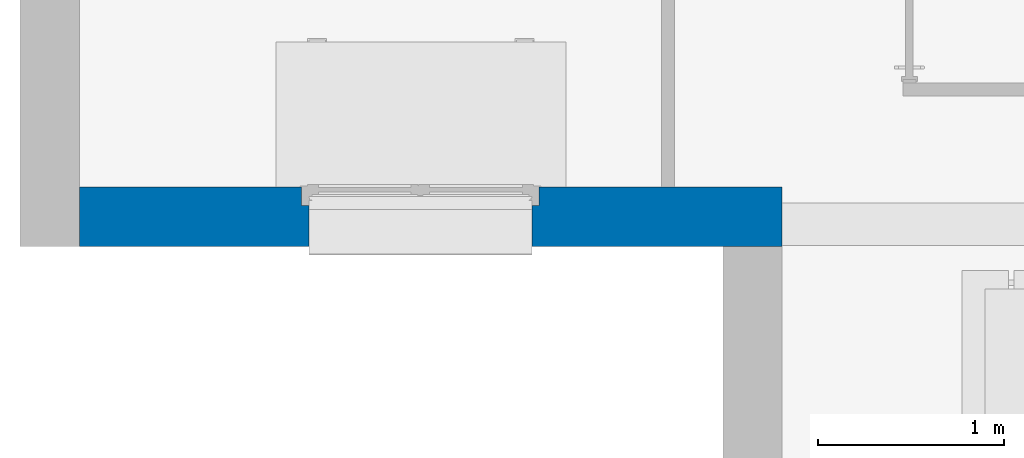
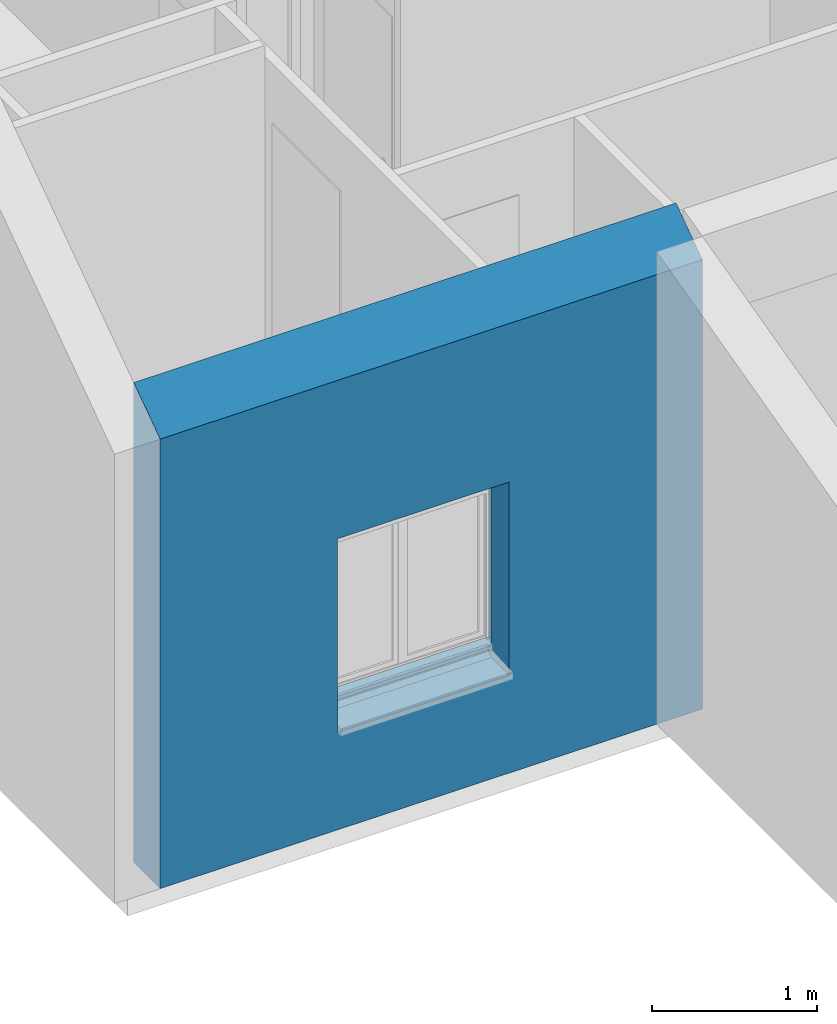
# One storey, part 8 of 50: 1 wall, 1 opening.
"""IFC2X3 building model written with IfcOpenShell, lengths in metres."""

from ifc_helpers import new_model, entity, si_unit, converted_unit, derived_unit, direction, frame, frame_2d, origin, place, context, subcontext, project, spatial, polyline, rectangle, extrude, clip, bounded_halfspace, faceted_brep, material, layer, layer_set, layer_usage, type_object, element, save


model = new_model("IFC2X3")

# Units and contexts
model_context = context("Model", 3, precision=1e-05, world=origin(), true_north=direction((6.12303176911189e-17, 1.0)))
context_of_model = context(None, 3, precision=1e-05, world=origin(), true_north=direction((6.12303176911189e-17, 1.0)))
body_context = subcontext(model_context, "Body", "Model", "MODEL_VIEW")
ifc_project = project(units=[si_unit("LENGTHUNIT", "METRE"), si_unit("AREAUNIT", "SQUARE_METRE"), si_unit("VOLUMEUNIT", "CUBIC_METRE"), converted_unit("PLANEANGLEUNIT", "DEGREE", entity("IfcRatioMeasure", 0.0174532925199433), si_unit("PLANEANGLEUNIT", "RADIAN"), dimensions=[0, 0, 0, 0, 0, 0, 0]), si_unit("MASSUNIT", "GRAM", prefix="KILO"), si_unit("TIMEUNIT", "SECOND"), si_unit("FREQUENCYUNIT", "HERTZ"), si_unit("THERMODYNAMICTEMPERATUREUNIT", "DEGREE_CELSIUS"), derived_unit("THERMALTRANSMITTANCEUNIT", [(si_unit("MASSUNIT", "GRAM", prefix="KILO"), 1), (si_unit("THERMODYNAMICTEMPERATUREUNIT", "KELVIN"), -1), (si_unit("TIMEUNIT", "SECOND"), -3)]), derived_unit("VOLUMETRICFLOWRATEUNIT", [(si_unit("LENGTHUNIT", "METRE"), 3), (si_unit("TIMEUNIT", "SECOND"), -1)]), si_unit("ELECTRICCURRENTUNIT", "AMPERE"), si_unit("ELECTRICVOLTAGEUNIT", "VOLT"), si_unit("POWERUNIT", "WATT"), si_unit("FORCEUNIT", "NEWTON", prefix="KILO"), si_unit("ILLUMINANCEUNIT", "LUX"), si_unit("LUMINOUSFLUXUNIT", "LUMEN"), si_unit("LUMINOUSINTENSITYUNIT", "CANDELA"), si_unit("PRESSUREUNIT", "PASCAL")], contexts=[model_context, context_of_model])

# Site, building, storey
site_placement = place(None, origin())
site = spatial("IfcSite", under=ifc_project, at=site_placement, Name="Surface", CompositionType="ELEMENT")
building_placement = place(site_placement, origin())
building = spatial("IfcBuilding", under=site, at=building_placement, CompositionType="ELEMENT")
storey_placement = place(building_placement, frame((0.0, 0.0, 2.82)))
storey = spatial("IfcBuildingStorey", under=building, at=storey_placement, Name="ETAGE", CompositionType="ELEMENT", Elevation=2.82)

# Wall, opening
ifc_material_1 = material(Name="Enduit blanc cassé2")
ifc_layer_1 = layer(ifc_material_1, 0.02)
ifc_material_2 = material(Name="Parpaing")
ifc_layer_2 = layer(ifc_material_2, 0.2)
ifc_material_3 = material(Name="Isolant")
ifc_layer_3 = layer(ifc_material_3, 0.1)
ifc_layer_set = layer_set([ifc_layer_1, ifc_layer_2, ifc_layer_3], Name="Mur de base:Ext. Parpaing 20 + Isolant 10 enduit blanc cassé")
ifc_layer_usage = layer_usage(ifc_layer_set, "AXIS2", "POSITIVE", -0.16)
wall_type = type_object("IfcWallType", Name="Mur de base:Ext. Parpaing 20 + Isolant 10 enduit blanc cassé", PredefinedType="STANDARD", material=ifc_layer_set)
wall_placement = place(storey_placement, frame((61.7063634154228, 80.0477566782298, 0.0)))
wall = element("IfcWallStandardCase", 1, at=wall_placement, inside=storey, type_object=wall_type, material=ifc_layer_usage, Name="Mur de base:Ext. Parpaing 20 + Isolant 10 enduit blanc cassé", ObjectType="Mur de base:Ext. Parpaing 20 + Isolant 10 enduit blanc cassé", context=body_context, shape_type="Clipping", body=[
    clip(extrude(rectangle(XDim=3.78826294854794, YDim=0.319999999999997, at=frame_2d((1.89413147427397, -3.06699110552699e-15), x_axis=(-1.0, 0.0))), origin(), (0.0, 0.0, 1.0), 3.54406641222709), bounded_halfspace(frame((0.0, -0.159999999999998, 3.31999999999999), z_axis=(0.0, -0.573576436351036, 0.819152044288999), x_axis=(1.0, 0.0, 0.0)), False, frame((0.0, -0.159999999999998, 3.31999999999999)), polyline([(0.0, 0.0), (3.78826294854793, 0.0), (3.78826294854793, 0.319999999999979), (0.0, 0.319999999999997), (0.0, 0.0)]))),
])
opening_placement = place(wall_placement, frame((1.18826294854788, -0.499999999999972, 0.719999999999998)))
element("IfcOpeningElement", 2, at=opening_placement, cuts=wall, Name="Mur de base:Ext. Parpaing 20 + Isolant 10 enduit blanc cassé", ObjectType="Opening", context=body_context, shape_type="Brep", body=[
    faceted_brep([(1.24999999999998, 1.0, 1.43), (1.24999999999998, 1.0, 0.0800000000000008), (0.0499999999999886, 1.0, 0.0800000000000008), (0.0499999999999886, 1.0, 1.43), (1.25000000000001, 0.0, 1.43), (0.0500000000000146, 0.0, 1.43), (0.0500000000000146, 0.0, 0.0800000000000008), (1.25000000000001, 0.0, 0.0800000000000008), (0.0499999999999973, 0.673000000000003, 1.43), (1.25, 0.672999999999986, 1.43), (0.0499999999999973, 0.673000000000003, 0.0800000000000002), (1.25, 0.672999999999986, 0.0800000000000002), (1.28999999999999, 0.673000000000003, 0.0800000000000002), (1.28999999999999, 0.560000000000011, 0.0800000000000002), (1.24999999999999, 0.560000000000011, 0.0800000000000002), (1.24999999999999, 0.594999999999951, 0.0800000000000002), (0.0499999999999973, 0.594999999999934, 0.0800000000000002), (0.0499999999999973, 0.559999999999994, 0.0800000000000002), (0.00999999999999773, 0.559999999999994, 0.0800000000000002), (0.00999999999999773, 0.673000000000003, 0.0800000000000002), (0.00999999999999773, 0.672999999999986, 1.47), (1.28999999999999, 0.673000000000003, 1.47), (0.00999999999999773, 0.559999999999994, 1.47), (0.0499999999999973, 0.559999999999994, 1.43), (1.25, 0.559999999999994, 1.43), (1.28999999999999, 0.560000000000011, 1.47), (1.3, 0.559999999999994, 1.47), (1.3, 0.559999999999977, 1.65), (0.0, 0.559999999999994, 1.65), (0.0, 0.559999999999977, 1.47), (0.0, 0.692999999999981, 1.65), (0.0, 0.692999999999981, 1.47), (1.3, 0.692999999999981, 1.65), (1.3, 0.692999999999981, 1.47), (0.0499999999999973, 0.559999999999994, 0.0), (0.0499999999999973, 0.594999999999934, 0.0349999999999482), (1.24999999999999, 0.594999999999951, 0.0349999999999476), (1.25, 0.559999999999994, 0.0), (0.0499999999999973, 0.294999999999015, 0.0800000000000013), (0.0499999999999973, 0.294999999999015, 0.0), (1.24999999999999, 0.294999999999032, 0.0), (1.25, 0.294999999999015, 0.0800000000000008)], [[[0, 1, 2, 3]], [[4, 5, 6, 7]], [[0, 3, 8, 9]], [[3, 2, 10, 8]], [[2, 1, 11, 12, 13, 14, 15, 16, 17, 18, 19, 10]], [[1, 0, 9, 11]], [[10, 19, 20, 21, 12, 11, 9, 8]], [[19, 18, 22, 20]], [[18, 17, 23, 24, 14, 13, 25, 26, 27, 28, 29, 22]], [[12, 21, 25, 13]], [[30, 31, 29, 28]], [[32, 27, 26, 33]], [[30, 28, 27, 32]], [[29, 31, 33, 26, 25, 21, 20, 22]], [[31, 30, 32, 33]], [[34, 35, 36, 37]], [[35, 16, 15, 36]], [[38, 39, 40, 41]], [[39, 34, 37, 40]], [[4, 7, 41, 40, 37, 36, 15, 14, 24]], [[7, 6, 38, 41]], [[6, 5, 23, 17, 16, 35, 34, 39, 38]], [[5, 4, 24, 23]]]),
])

save(model, "model.ifc")
